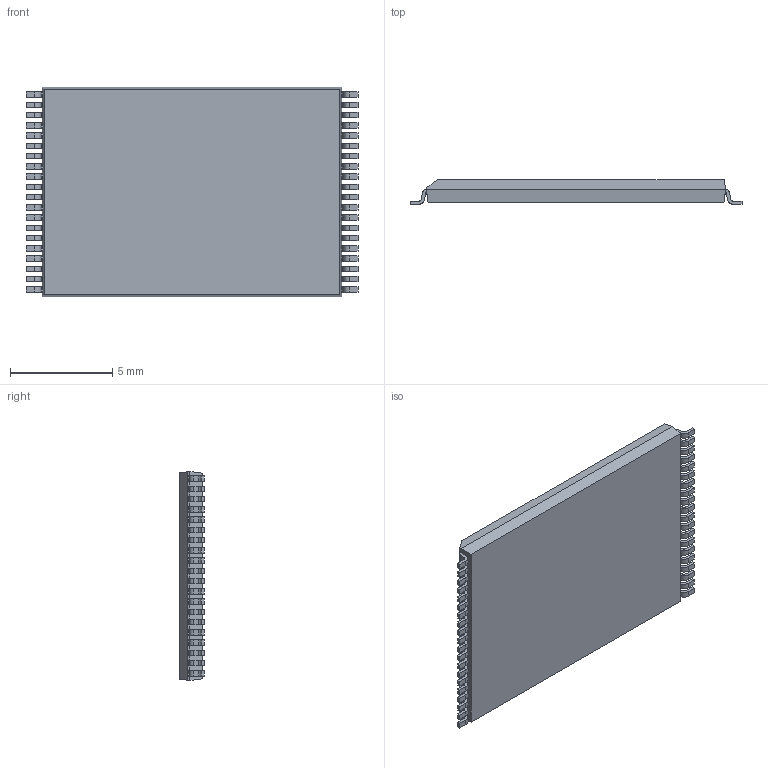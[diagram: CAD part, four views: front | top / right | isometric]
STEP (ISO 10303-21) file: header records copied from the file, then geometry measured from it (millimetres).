
FILE_DESCRIPTION (( 'STEP AP214' ), '1' );
FILE_NAME ('TSSOP50P1600X120-40_MO-142.CB.STEP', '2014-10-29T11:00:39', ( 'Tester2' ), ( '' ), 'SwSTEP 2.0', 'SolidWorks 2012', '' );
FILE_SCHEMA (( 'AUTOMOTIVE_DESIGN' ));
Length unit declared in the file: millimetre
Products named in the file (1): TSSOP50P1600X120-40_MO-142.CB
Bounding box: 16.2 x 1.2 x 10.2 mm (x, y, z)
Volume: 162.7 mm3; surface area: 383.6 mm2
Topology: 1 solids, 1 shells, 454 faces, 1349 edges, 898 vertices
Faces by surface type: plane 292, cylinder 162
Entity records: 20112 total; most frequent: CARTESIAN_POINT 2702, ORIENTED_EDGE 2698, DIRECTION 2583, EDGE_CURVE 1349, LINE 1025, VECTOR 1025, VERTEX_POINT 898, AXIS2_PLACEMENT_3D 779
